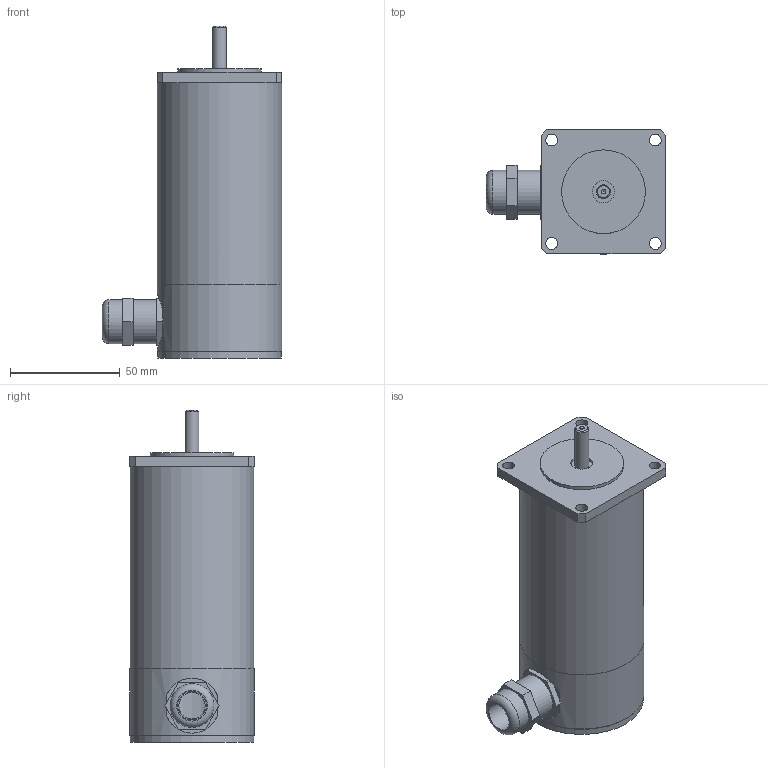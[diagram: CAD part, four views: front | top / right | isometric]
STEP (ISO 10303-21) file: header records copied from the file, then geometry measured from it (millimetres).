
FILE_DESCRIPTION((''),'2;1');
FILE_NAME('C:\Users\Reinhard\Documents\Inventor\Testschrittmotor\SM56\step files\SM 56.3-KV.stp','2020-02-24T20:13:54',('Reinhard'),(''),'Autodesk Inventor 2012','Autodesk Inventor 2012','');
FILE_SCHEMA(('CONFIG_CONTROL_DESIGN'));
Length unit declared in the file: millimetre
Products named in the file (1): SM 56.3-KV_Konturvereinfachung_1
Bounding box: 81.5 x 56.5 x 151 mm (x, y, z)
Volume: 72734.7 mm3; surface area: 58849.7 mm2
Topology: 2 solids, 2 shells, 76 faces, 167 edges, 107 vertices
Faces by surface type: plane 48, cylinder 25, cone 2, torus 1
Full cylindrical faces by diameter (mm): 2 x1, 5.4 x4, 6.35 x2, 10 x1, 12 x1, 13 x2, 15 x1, 18.376 x1, 20 x3, 38.1 x1, 48 x1, 51.5 x1, 53.5 x1, 56 x1, 56.5 x2
Entity records: 2056 total; most frequent: CARTESIAN_POINT 394, DIRECTION 340, ORIENTED_EDGE 274, EDGE_CURVE 137, AXIS2_PLACEMENT_3D 131, EDGE_LOOP 128, VERTEX_POINT 103, VECTOR 78
